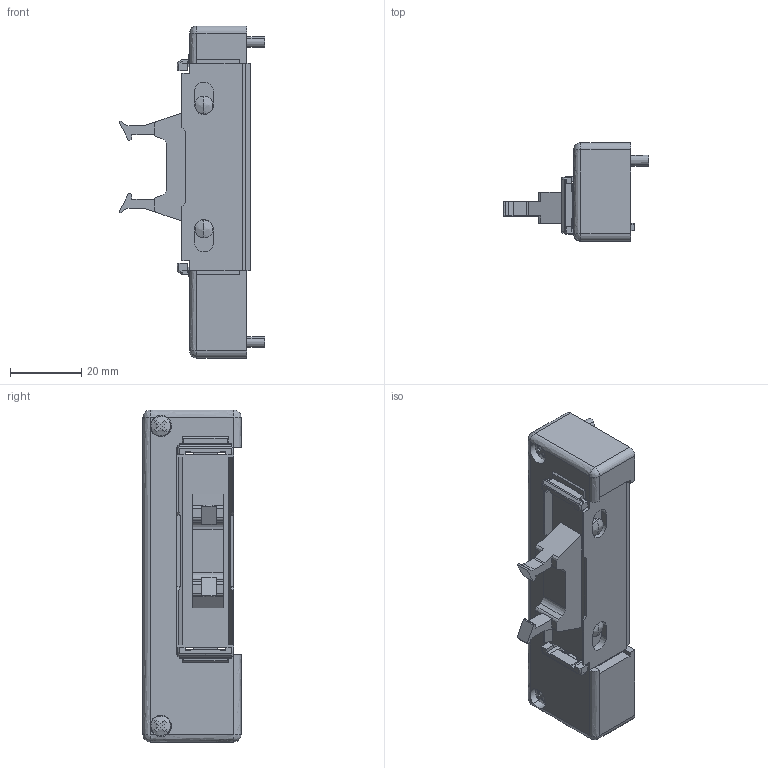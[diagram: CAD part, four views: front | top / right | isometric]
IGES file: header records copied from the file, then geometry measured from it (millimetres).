
Start section: ------------------------------------------------------------------------
Global section: file name: D:\ICADMX\tmp\trans3d_spg\CVICAD02.16560.FZX-F10xN-E_8794.igs; native system: spGate; preprocessor: ver12.6.6; author: Unknown; organization: Unknown; date: 200901.142535; units: millimetre
Bounding box: 40.7 x 27.5 x 93 mm (x, y, z)
Volume: 35513.9 mm3; surface area: 14357.5 mm2
Topology: 2 solids, 2 shells, 327 faces, 952 edges, 610 vertices
Faces by surface type: bspline 327
